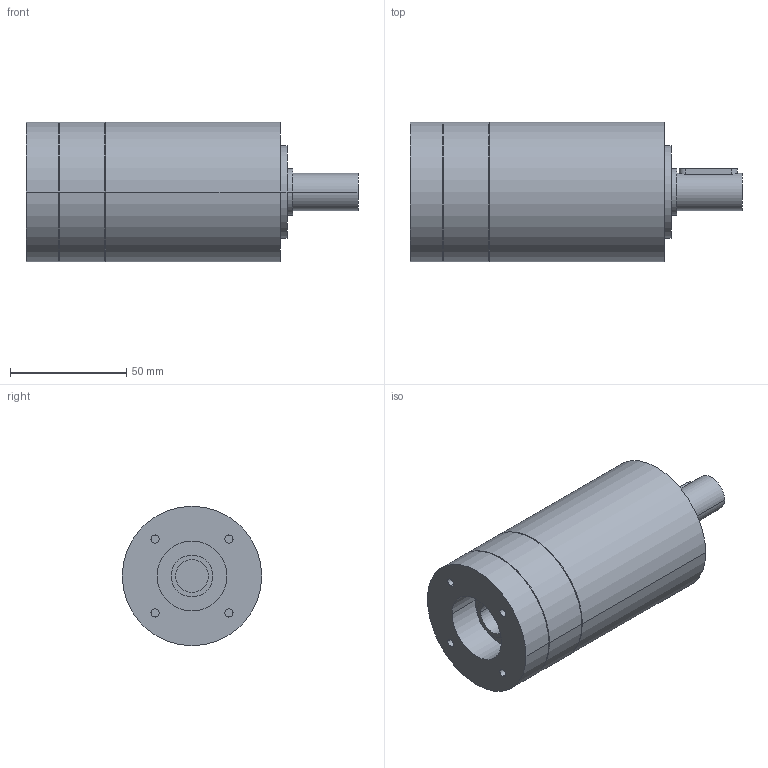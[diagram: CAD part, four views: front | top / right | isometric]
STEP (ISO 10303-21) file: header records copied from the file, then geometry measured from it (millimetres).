
FILE_DESCRIPTION(('CoCreate Modeling STEP Export'),'2;1');
FILE_NAME('GPR75_ig-9-12-16-20-24-30-36_16_B14_14_P16.stp','2014-08-25T16:45:18',(''),(''),'CoCreate Modeling STEP processor for AP214 (Solid Model)','CoCreate Modeling 16.00C 25-Feb-2009 (C) Parametric Technology GmbH','');
FILE_SCHEMA(('AUTOMOTIVE_DESIGN { 1 0 10303 214 1 1 1 1 }'));
Length unit declared in the file: millimetre
Products named in the file (2): GPR75_ig-9-12-16-20-24-30-36_16_B14_14_P16
Assembly tree (1 placements, depth 2):
  GPR75_ig-9-12-16-20-24-30-36_16_B14_14_P16
    GPR75_ig-9-12-16-20-24-30-36_16_B14_14_P16
Bounding box: 142.9 x 60 x 60 mm (x, y, z)
Volume: 304834.5 mm3; surface area: 33009.2 mm2
Topology: 1 solids, 1 shells, 77 faces, 196 edges, 140 vertices
Faces by surface type: cylinder 46, plane 25, cone 6
Entity records: 1966 total; most frequent: ORIENTED_EDGE 388, CARTESIAN_POINT 360, DIRECTION 254, EDGE_CURVE 194, VERTEX_POINT 140, AXIS2_PLACEMENT_3D 98, EDGE_LOOP 98, FACE_OUTER_BOUND 77
